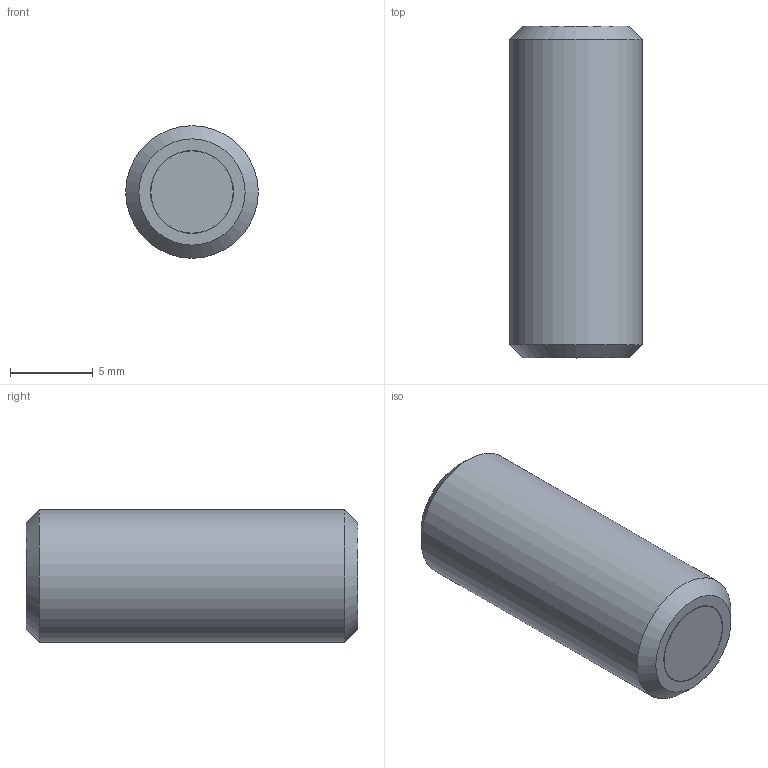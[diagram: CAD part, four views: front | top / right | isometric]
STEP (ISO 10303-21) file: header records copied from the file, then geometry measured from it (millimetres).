
FILE_DESCRIPTION(/* description */ ('STEP AP214'),/* implementation_level */ '2;1');
FILE_NAME(/* name */ 'Grub screw with retaining magnet GN 913.6-M8-20-ND',/* time_stamp */ '2023-10-03T11:26:29+02:00',/* author */ ('License CC BY-ND 4.0'),/* organization */ ('CADENAS'),/* preprocessor_version */ 'ST-DEVELOPER v19.3',/* originating_system */ 'PARTsolutions',/* authorisation */ ' ');
FILE_SCHEMA (('AUTOMOTIVE_DESIGN {1 0 10303 214 3 1 1}'));
Length unit declared in the file: millimetre
Products named in the file (1): Grub screw with retaining magnet GN 913.6-M8-20-ND
Bounding box: 8 x 20 x 8 mm (x, y, z)
Volume: 932.5 mm3; surface area: 633.5 mm2
Topology: 1 solids, 1 shells, 22 faces, 46 edges, 28 vertices
Faces by surface type: plane 16, cone 3, cylinder 3
Full cylindrical faces by diameter (mm): 4.96 x1, 5 x1, 8 x1
Entity records: 566 total; most frequent: DIRECTION 98, CARTESIAN_POINT 88, ORIENTED_EDGE 76, EDGE_CURVE 38, AXIS2_PLACEMENT_3D 37, FACE_BOUND 31, EDGE_LOOP 30, VERTEX_POINT 27
